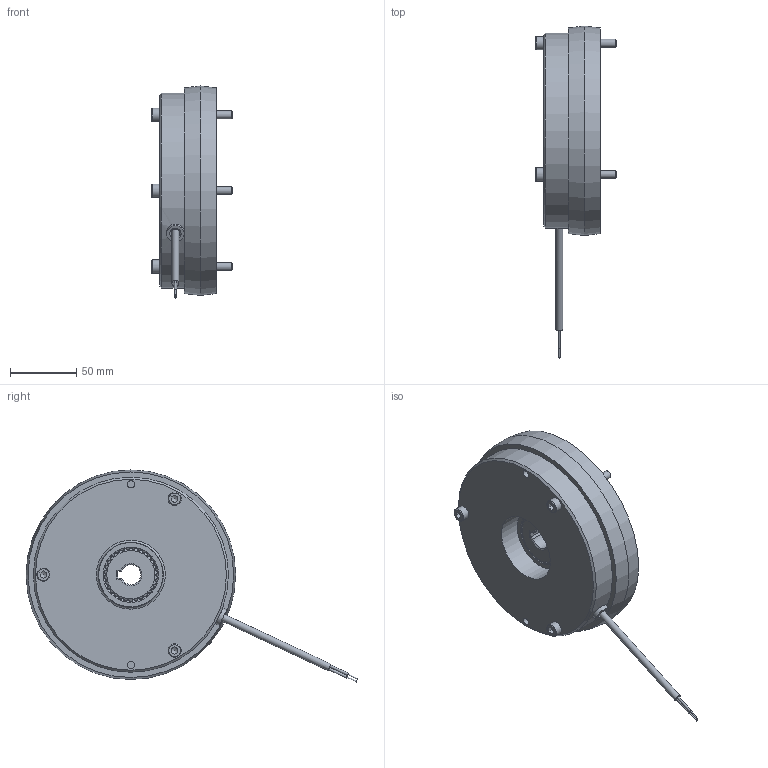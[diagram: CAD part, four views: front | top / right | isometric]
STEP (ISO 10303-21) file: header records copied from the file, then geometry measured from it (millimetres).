
FILE_DESCRIPTION(/* description */ (''),/* implementation_level */ '2;1');
FILE_NAME(/* name */ 'C:\SapWorkDir\Inventor\IP1\ConvertTempPath\5029492_IPT_000.ipt.stp',/* time_stamp */ '2021-04-21T08:43:32+02:00',/* author */ ('WOELK'),/* organization */ (''),/* preprocessor_version */ 'ST-DEVELOPER v17',/* originating_system */ 'Autodesk Inventor 2018',/* authorisation */ '');
FILE_SCHEMA (('AUTOMOTIVE_DESIGN { 1 0 10303 214 3 1 1 }'));
Products named in the file (1): 5029492
Bounding box: 61 x 250.15 x 159.94 mm (x, y, z)
Volume: 627641 mm3; surface area: 160281.6 mm2
Topology: 1 solids, 1 shells, 1721 faces, 5551 edges, 3689 vertices
Faces by surface type: cylinder 943, plane 398, torus 219, cone 100, bspline 61
Full cylindrical faces by diameter (mm): 1 x2, 1.85 x2, 5 x1, 5.3 x1, 5.5 x3, 6 x3, 6.15 x3, 6.5 x3, 6.6 x7, 8.917 x3, 10 x6, 10.4 x3, 12 x3, 13.2 x1, 43.45 x1, 52 x2, 68 x1, 69.5 x2, 70.1 x2, 115 x1, 147 x2
Entity records: 68949 total; most frequent: CARTESIAN_POINT 18991, ORIENTED_EDGE 11098, DIRECTION 9530, EDGE_CURVE 5549, VERTEX_POINT 3689, AXIS2_PLACEMENT_3D 3678, LINE 2174, VECTOR 2174
